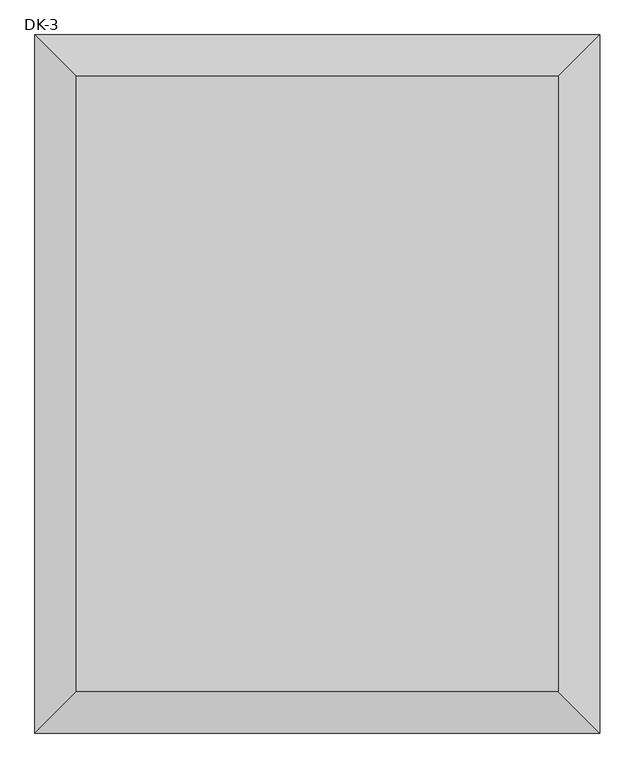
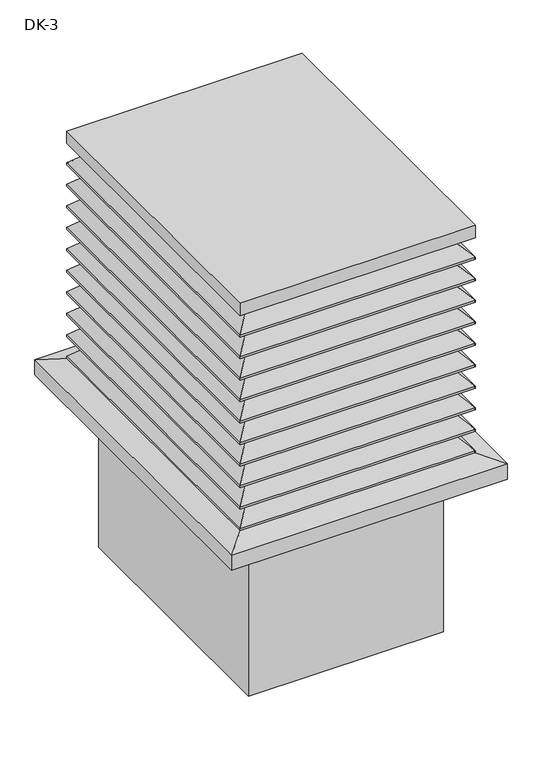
"""IFC4 building model written with IfcOpenShell, lengths in millimetres: air terminal geometry, NLRS_57_AIR_FB_Dakkap DK-3_SMA : DK-3."""

from ifc_helpers import new_model, si_unit, origin, place, context, project, spatial, faceted_brep, source, transform, mapped, element, save


def dk_3_dd5dadc6(model_context):
    return source(origin(), model_context, "Body", "Brep", [
        faceted_brep([(362.5, 462.5, 850.0), (362.5, 462.5, 856.36499), (362.5, -462.5, 856.36499), (362.5, -462.5, 850.0), (361.5, 461.5, 855.9507764), (361.5, 461.5, 850.0), (361.5, -461.5, 850.0), (361.5, -461.5, 855.9507764), (300.0, 400.0, 917.4507764), (300.0, -400.0, 917.4507764), (300.0, 400.0, 920.0), (300.0, -400.0, 920.0), (301.0, 401.0, 917.86499), (301.0, 401.0, 920.0), (301.0, -401.0, 920.0), (301.0, -401.0, 917.86499), (-362.5, -462.5, 856.36499), (-362.5, -462.5, 850.0), (-361.5, -461.5, 850.0), (-361.5, -461.5, 855.9507764), (-300.0, -400.0, 917.4507764), (-300.0, -400.0, 920.0), (-301.0, -401.0, 920.0), (-301.0, -401.0, 917.86499), (-362.5, 462.5, 856.36499), (-362.5, 462.5, 850.0), (-361.5, 461.5, 850.0), (-361.5, 461.5, 855.9507764), (-300.0, 400.0, 917.4507764), (-300.0, 400.0, 920.0), (-301.0, 401.0, 920.0), (-301.0, 401.0, 917.86499)], [[[0, 1, 2, 3]], [[4, 5, 6, 7]], [[8, 4, 7, 9]], [[10, 8, 9, 11]], [[12, 13, 14, 15]], [[1, 12, 15, 2]], [[3, 2, 16, 17]], [[7, 6, 18, 19]], [[9, 7, 19, 20]], [[11, 9, 20, 21]], [[15, 14, 22, 23]], [[2, 15, 23, 16]], [[17, 16, 24, 25]], [[19, 18, 26, 27]], [[20, 19, 27, 28]], [[21, 20, 28, 29]], [[23, 22, 30, 31]], [[16, 23, 31, 24]], [[25, 24, 1, 0]], [[3, 17, 25, 0], [5, 26, 18, 6]], [[27, 26, 5, 4]], [[28, 27, 4, 8]], [[29, 28, 8, 10]], [[13, 30, 22, 14], [11, 21, 29, 10]], [[31, 30, 13, 12]], [[24, 31, 12, 1]]]),
        faceted_brep([(362.5, 462.5, 780.0), (362.5, 462.5, 786.36499), (362.5, -462.5, 786.36499), (362.5, -462.5, 780.0), (361.5, 461.5, 785.9507764), (361.5, 461.5, 780.0), (361.5, -461.5, 780.0), (361.5, -461.5, 785.9507764), (300.0, 400.0, 847.4507764), (300.0, -400.0, 847.4507764), (300.0, 400.0, 850.0), (300.0, -400.0, 850.0), (301.0, 401.0, 847.86499), (301.0, 401.0, 850.0), (301.0, -401.0, 850.0), (301.0, -401.0, 847.86499), (-362.5, -462.5, 786.36499), (-362.5, -462.5, 780.0), (-361.5, -461.5, 780.0), (-361.5, -461.5, 785.9507764), (-300.0, -400.0, 847.4507764), (-300.0, -400.0, 850.0), (-301.0, -401.0, 850.0), (-301.0, -401.0, 847.86499), (-362.5, 462.5, 786.36499), (-362.5, 462.5, 780.0), (-361.5, 461.5, 780.0), (-361.5, 461.5, 785.9507764), (-300.0, 400.0, 847.4507764), (-300.0, 400.0, 850.0), (-301.0, 401.0, 850.0), (-301.0, 401.0, 847.86499)], [[[0, 1, 2, 3]], [[4, 5, 6, 7]], [[8, 4, 7, 9]], [[10, 8, 9, 11]], [[12, 13, 14, 15]], [[1, 12, 15, 2]], [[3, 2, 16, 17]], [[7, 6, 18, 19]], [[9, 7, 19, 20]], [[11, 9, 20, 21]], [[15, 14, 22, 23]], [[2, 15, 23, 16]], [[17, 16, 24, 25]], [[19, 18, 26, 27]], [[20, 19, 27, 28]], [[21, 20, 28, 29]], [[23, 22, 30, 31]], [[16, 23, 31, 24]], [[25, 24, 1, 0]], [[3, 17, 25, 0], [5, 26, 18, 6]], [[27, 26, 5, 4]], [[28, 27, 4, 8]], [[29, 28, 8, 10]], [[13, 30, 22, 14], [11, 21, 29, 10]], [[31, 30, 13, 12]], [[24, 31, 12, 1]]]),
        faceted_brep([(362.5, 462.5, 710.0), (362.5, 462.5, 716.36499), (362.5, -462.5, 716.36499), (362.5, -462.5, 710.0), (361.5, 461.5, 715.9507764), (361.5, 461.5, 710.0), (361.5, -461.5, 710.0), (361.5, -461.5, 715.9507764), (300.0, 400.0, 777.4507764), (300.0, -400.0, 777.4507764), (300.0, 400.0, 780.0), (300.0, -400.0, 780.0), (301.0, 401.0, 777.86499), (301.0, 401.0, 780.0), (301.0, -401.0, 780.0), (301.0, -401.0, 777.86499), (-362.5, -462.5, 716.36499), (-362.5, -462.5, 710.0), (-361.5, -461.5, 710.0), (-361.5, -461.5, 715.9507764), (-300.0, -400.0, 777.4507764), (-300.0, -400.0, 780.0), (-301.0, -401.0, 780.0), (-301.0, -401.0, 777.86499), (-362.5, 462.5, 716.36499), (-362.5, 462.5, 710.0), (-361.5, 461.5, 710.0), (-361.5, 461.5, 715.9507764), (-300.0, 400.0, 777.4507764), (-300.0, 400.0, 780.0), (-301.0, 401.0, 780.0), (-301.0, 401.0, 777.86499)], [[[0, 1, 2, 3]], [[4, 5, 6, 7]], [[8, 4, 7, 9]], [[10, 8, 9, 11]], [[12, 13, 14, 15]], [[1, 12, 15, 2]], [[3, 2, 16, 17]], [[7, 6, 18, 19]], [[9, 7, 19, 20]], [[11, 9, 20, 21]], [[15, 14, 22, 23]], [[2, 15, 23, 16]], [[17, 16, 24, 25]], [[19, 18, 26, 27]], [[20, 19, 27, 28]], [[21, 20, 28, 29]], [[23, 22, 30, 31]], [[16, 23, 31, 24]], [[25, 24, 1, 0]], [[3, 17, 25, 0], [5, 26, 18, 6]], [[27, 26, 5, 4]], [[28, 27, 4, 8]], [[29, 28, 8, 10]], [[13, 30, 22, 14], [11, 21, 29, 10]], [[31, 30, 13, 12]], [[24, 31, 12, 1]]]),
        faceted_brep([(362.5, 462.5, 640.0), (362.5, 462.5, 646.36499), (362.5, -462.5, 646.36499), (362.5, -462.5, 640.0), (361.5, 461.5, 645.9507764), (361.5, 461.5, 640.0), (361.5, -461.5, 640.0), (361.5, -461.5, 645.9507764), (300.0, 400.0, 707.4507764), (300.0, -400.0, 707.4507764), (300.0, 400.0, 710.0), (300.0, -400.0, 710.0), (301.0, 401.0, 707.86499), (301.0, 401.0, 710.0), (301.0, -401.0, 710.0), (301.0, -401.0, 707.86499), (-362.5, -462.5, 646.36499), (-362.5, -462.5, 640.0), (-361.5, -461.5, 640.0), (-361.5, -461.5, 645.9507764), (-300.0, -400.0, 707.4507764), (-300.0, -400.0, 710.0), (-301.0, -401.0, 710.0), (-301.0, -401.0, 707.86499), (-362.5, 462.5, 646.36499), (-362.5, 462.5, 640.0), (-361.5, 461.5, 640.0), (-361.5, 461.5, 645.9507764), (-300.0, 400.0, 707.4507764), (-300.0, 400.0, 710.0), (-301.0, 401.0, 710.0), (-301.0, 401.0, 707.86499)], [[[0, 1, 2, 3]], [[4, 5, 6, 7]], [[8, 4, 7, 9]], [[10, 8, 9, 11]], [[12, 13, 14, 15]], [[1, 12, 15, 2]], [[3, 2, 16, 17]], [[7, 6, 18, 19]], [[9, 7, 19, 20]], [[11, 9, 20, 21]], [[15, 14, 22, 23]], [[2, 15, 23, 16]], [[17, 16, 24, 25]], [[19, 18, 26, 27]], [[20, 19, 27, 28]], [[21, 20, 28, 29]], [[23, 22, 30, 31]], [[16, 23, 31, 24]], [[25, 24, 1, 0]], [[3, 17, 25, 0], [5, 26, 18, 6]], [[27, 26, 5, 4]], [[28, 27, 4, 8]], [[29, 28, 8, 10]], [[13, 30, 22, 14], [11, 21, 29, 10]], [[31, 30, 13, 12]], [[24, 31, 12, 1]]]),
        faceted_brep([(362.5, 462.5, 570.0), (362.5, 462.5, 576.36499), (362.5, -462.5, 576.36499), (362.5, -462.5, 570.0), (361.5, 461.5, 575.9507764), (361.5, 461.5, 570.0), (361.5, -461.5, 570.0), (361.5, -461.5, 575.9507764), (300.0, 400.0, 637.4507764), (300.0, -400.0, 637.4507764), (300.0, 400.0, 640.0), (300.0, -400.0, 640.0), (301.0, 401.0, 637.86499), (301.0, 401.0, 640.0), (301.0, -401.0, 640.0), (301.0, -401.0, 637.86499), (-362.5, -462.5, 576.36499), (-362.5, -462.5, 570.0), (-361.5, -461.5, 570.0), (-361.5, -461.5, 575.9507764), (-300.0, -400.0, 637.4507764), (-300.0, -400.0, 640.0), (-301.0, -401.0, 640.0), (-301.0, -401.0, 637.86499), (-362.5, 462.5, 576.36499), (-362.5, 462.5, 570.0), (-361.5, 461.5, 570.0), (-361.5, 461.5, 575.9507764), (-300.0, 400.0, 637.4507764), (-300.0, 400.0, 640.0), (-301.0, 401.0, 640.0), (-301.0, 401.0, 637.86499)], [[[0, 1, 2, 3]], [[4, 5, 6, 7]], [[8, 4, 7, 9]], [[10, 8, 9, 11]], [[12, 13, 14, 15]], [[1, 12, 15, 2]], [[3, 2, 16, 17]], [[7, 6, 18, 19]], [[9, 7, 19, 20]], [[11, 9, 20, 21]], [[15, 14, 22, 23]], [[2, 15, 23, 16]], [[17, 16, 24, 25]], [[19, 18, 26, 27]], [[20, 19, 27, 28]], [[21, 20, 28, 29]], [[23, 22, 30, 31]], [[16, 23, 31, 24]], [[25, 24, 1, 0]], [[3, 17, 25, 0], [5, 26, 18, 6]], [[27, 26, 5, 4]], [[28, 27, 4, 8]], [[29, 28, 8, 10]], [[13, 30, 22, 14], [11, 21, 29, 10]], [[31, 30, 13, 12]], [[24, 31, 12, 1]]]),
        faceted_brep([(362.5, 462.5, 500.0), (362.5, 462.5, 506.36499), (362.5, -462.5, 506.36499), (362.5, -462.5, 500.0), (361.5, 461.5, 505.9507764), (361.5, 461.5, 500.0), (361.5, -461.5, 500.0), (361.5, -461.5, 505.9507764), (300.0, 400.0, 567.4507764), (300.0, -400.0, 567.4507764), (300.0, 400.0, 570.0), (300.0, -400.0, 570.0), (301.0, 401.0, 567.86499), (301.0, 401.0, 570.0), (301.0, -401.0, 570.0), (301.0, -401.0, 567.86499), (-362.5, -462.5, 506.36499), (-362.5, -462.5, 500.0), (-361.5, -461.5, 500.0), (-361.5, -461.5, 505.9507764), (-300.0, -400.0, 567.4507764), (-300.0, -400.0, 570.0), (-301.0, -401.0, 570.0), (-301.0, -401.0, 567.86499), (-362.5, 462.5, 506.36499), (-362.5, 462.5, 500.0), (-361.5, 461.5, 500.0), (-361.5, 461.5, 505.9507764), (-300.0, 400.0, 567.4507764), (-300.0, 400.0, 570.0), (-301.0, 401.0, 570.0), (-301.0, 401.0, 567.86499)], [[[0, 1, 2, 3]], [[4, 5, 6, 7]], [[8, 4, 7, 9]], [[10, 8, 9, 11]], [[12, 13, 14, 15]], [[1, 12, 15, 2]], [[3, 2, 16, 17]], [[7, 6, 18, 19]], [[9, 7, 19, 20]], [[11, 9, 20, 21]], [[15, 14, 22, 23]], [[2, 15, 23, 16]], [[17, 16, 24, 25]], [[19, 18, 26, 27]], [[20, 19, 27, 28]], [[21, 20, 28, 29]], [[23, 22, 30, 31]], [[16, 23, 31, 24]], [[25, 24, 1, 0]], [[3, 17, 25, 0], [5, 26, 18, 6]], [[27, 26, 5, 4]], [[28, 27, 4, 8]], [[29, 28, 8, 10]], [[13, 30, 22, 14], [11, 21, 29, 10]], [[31, 30, 13, 12]], [[24, 31, 12, 1]]]),
        faceted_brep([(362.5, 462.5, 430.0), (362.5, 462.5, 436.36499), (362.5, -462.5, 436.36499), (362.5, -462.5, 430.0), (361.5, 461.5, 435.9507764), (361.5, 461.5, 430.0), (361.5, -461.5, 430.0), (361.5, -461.5, 435.9507764), (300.0, 400.0, 497.4507764), (300.0, -400.0, 497.4507764), (300.0, 400.0, 500.0), (300.0, -400.0, 500.0), (301.0, 401.0, 497.86499), (301.0, 401.0, 500.0), (301.0, -401.0, 500.0), (301.0, -401.0, 497.86499), (-362.5, -462.5, 436.36499), (-362.5, -462.5, 430.0), (-361.5, -461.5, 430.0), (-361.5, -461.5, 435.9507764), (-300.0, -400.0, 497.4507764), (-300.0, -400.0, 500.0), (-301.0, -401.0, 500.0), (-301.0, -401.0, 497.86499), (-362.5, 462.5, 436.36499), (-362.5, 462.5, 430.0), (-361.5, 461.5, 430.0), (-361.5, 461.5, 435.9507764), (-300.0, 400.0, 497.4507764), (-300.0, 400.0, 500.0), (-301.0, 401.0, 500.0), (-301.0, 401.0, 497.86499)], [[[0, 1, 2, 3]], [[4, 5, 6, 7]], [[8, 4, 7, 9]], [[10, 8, 9, 11]], [[12, 13, 14, 15]], [[1, 12, 15, 2]], [[3, 2, 16, 17]], [[7, 6, 18, 19]], [[9, 7, 19, 20]], [[11, 9, 20, 21]], [[15, 14, 22, 23]], [[2, 15, 23, 16]], [[17, 16, 24, 25]], [[19, 18, 26, 27]], [[20, 19, 27, 28]], [[21, 20, 28, 29]], [[23, 22, 30, 31]], [[16, 23, 31, 24]], [[25, 24, 1, 0]], [[3, 17, 25, 0], [5, 26, 18, 6]], [[27, 26, 5, 4]], [[28, 27, 4, 8]], [[29, 28, 8, 10]], [[13, 30, 22, 14], [11, 21, 29, 10]], [[31, 30, 13, 12]], [[24, 31, 12, 1]]]),
        faceted_brep([(362.5, 462.5, 360.0), (362.5, 462.5, 366.36499), (362.5, -462.5, 366.36499), (362.5, -462.5, 360.0), (361.5, 461.5, 365.9507764), (361.5, 461.5, 360.0), (361.5, -461.5, 360.0), (361.5, -461.5, 365.9507764), (300.0, 400.0, 427.4507764), (300.0, -400.0, 427.4507764), (300.0, 400.0, 430.0), (300.0, -400.0, 430.0), (301.0, 401.0, 427.86499), (301.0, 401.0, 430.0), (301.0, -401.0, 430.0), (301.0, -401.0, 427.86499), (-362.5, -462.5, 366.36499), (-362.5, -462.5, 360.0), (-361.5, -461.5, 360.0), (-361.5, -461.5, 365.9507764), (-300.0, -400.0, 427.4507764), (-300.0, -400.0, 430.0), (-301.0, -401.0, 430.0), (-301.0, -401.0, 427.86499), (-362.5, 462.5, 366.36499), (-362.5, 462.5, 360.0), (-361.5, 461.5, 360.0), (-361.5, 461.5, 365.9507764), (-300.0, 400.0, 427.4507764), (-300.0, 400.0, 430.0), (-301.0, 401.0, 430.0), (-301.0, 401.0, 427.86499)], [[[0, 1, 2, 3]], [[4, 5, 6, 7]], [[8, 4, 7, 9]], [[10, 8, 9, 11]], [[12, 13, 14, 15]], [[1, 12, 15, 2]], [[3, 2, 16, 17]], [[7, 6, 18, 19]], [[9, 7, 19, 20]], [[11, 9, 20, 21]], [[15, 14, 22, 23]], [[2, 15, 23, 16]], [[17, 16, 24, 25]], [[19, 18, 26, 27]], [[20, 19, 27, 28]], [[21, 20, 28, 29]], [[23, 22, 30, 31]], [[16, 23, 31, 24]], [[25, 24, 1, 0]], [[3, 17, 25, 0], [5, 26, 18, 6]], [[27, 26, 5, 4]], [[28, 27, 4, 8]], [[29, 28, 8, 10]], [[13, 30, 22, 14], [11, 21, 29, 10]], [[31, 30, 13, 12]], [[24, 31, 12, 1]]]),
        faceted_brep([(362.5, 462.5, 290.0), (362.5, 462.5, 296.36499), (362.5, -462.5, 296.36499), (362.5, -462.5, 290.0), (361.5, 461.5, 295.9507764), (361.5, 461.5, 290.0), (361.5, -461.5, 290.0), (361.5, -461.5, 295.9507764), (300.0, 400.0, 357.4507764), (300.0, -400.0, 357.4507764), (300.0, 400.0, 360.0), (300.0, -400.0, 360.0), (301.0, 401.0, 357.86499), (301.0, 401.0, 360.0), (301.0, -401.0, 360.0), (301.0, -401.0, 357.86499), (-362.5, -462.5, 296.36499), (-362.5, -462.5, 290.0), (-361.5, -461.5, 290.0), (-361.5, -461.5, 295.9507764), (-300.0, -400.0, 357.4507764), (-300.0, -400.0, 360.0), (-301.0, -401.0, 360.0), (-301.0, -401.0, 357.86499), (-362.5, 462.5, 296.36499), (-362.5, 462.5, 290.0), (-361.5, 461.5, 290.0), (-361.5, 461.5, 295.9507764), (-300.0, 400.0, 357.4507764), (-300.0, 400.0, 360.0), (-301.0, 401.0, 360.0), (-301.0, 401.0, 357.86499)], [[[0, 1, 2, 3]], [[4, 5, 6, 7]], [[8, 4, 7, 9]], [[10, 8, 9, 11]], [[12, 13, 14, 15]], [[1, 12, 15, 2]], [[3, 2, 16, 17]], [[7, 6, 18, 19]], [[9, 7, 19, 20]], [[11, 9, 20, 21]], [[15, 14, 22, 23]], [[2, 15, 23, 16]], [[17, 16, 24, 25]], [[19, 18, 26, 27]], [[20, 19, 27, 28]], [[21, 20, 28, 29]], [[23, 22, 30, 31]], [[16, 23, 31, 24]], [[25, 24, 1, 0]], [[3, 17, 25, 0], [5, 26, 18, 6]], [[27, 26, 5, 4]], [[28, 27, 4, 8]], [[29, 28, 8, 10]], [[13, 30, 22, 14], [11, 21, 29, 10]], [[31, 30, 13, 12]], [[24, 31, 12, 1]]]),
        faceted_brep([(362.5, 462.5, 220.0), (362.5, 462.5, 226.36499), (362.5, -462.5, 226.36499), (362.5, -462.5, 220.0), (361.5, 461.5, 225.9507764), (361.5, 461.5, 220.0), (361.5, -461.5, 220.0), (361.5, -461.5, 225.9507764), (300.0, 400.0, 287.4507764), (300.0, -400.0, 287.4507764), (300.0, 400.0, 290.0), (300.0, -400.0, 290.0), (301.0, 401.0, 287.86499), (301.0, 401.0, 290.0), (301.0, -401.0, 290.0), (301.0, -401.0, 287.86499), (-362.5, -462.5, 226.36499), (-362.5, -462.5, 220.0), (-361.5, -461.5, 220.0), (-361.5, -461.5, 225.9507764), (-300.0, -400.0, 287.4507764), (-300.0, -400.0, 290.0), (-301.0, -401.0, 290.0), (-301.0, -401.0, 287.86499), (-362.5, 462.5, 226.36499), (-362.5, 462.5, 220.0), (-361.5, 461.5, 220.0), (-361.5, 461.5, 225.9507764), (-300.0, 400.0, 287.4507764), (-300.0, 400.0, 290.0), (-301.0, 401.0, 290.0), (-301.0, 401.0, 287.86499)], [[[0, 1, 2, 3]], [[4, 5, 6, 7]], [[8, 4, 7, 9]], [[10, 8, 9, 11]], [[12, 13, 14, 15]], [[1, 12, 15, 2]], [[3, 2, 16, 17]], [[7, 6, 18, 19]], [[9, 7, 19, 20]], [[11, 9, 20, 21]], [[15, 14, 22, 23]], [[2, 15, 23, 16]], [[17, 16, 24, 25]], [[19, 18, 26, 27]], [[20, 19, 27, 28]], [[21, 20, 28, 29]], [[23, 22, 30, 31]], [[16, 23, 31, 24]], [[25, 24, 1, 0]], [[3, 17, 25, 0], [5, 26, 18, 6]], [[27, 26, 5, 4]], [[28, 27, 4, 8]], [[29, 28, 8, 10]], [[13, 30, 22, 14], [11, 21, 29, 10]], [[31, 30, 13, 12]], [[24, 31, 12, 1]]]),
        faceted_brep([(300.0, -400.0, 240.0), (300.0, 400.0, 240.0), (300.0, 400.0, 200.0), (300.0, -400.0, 200.0), (425.0, 525.0, 150.0), (425.0, 525.0, 200.0), (425.0, -525.0, 200.0), (425.0, -525.0, 150.0), (-300.0, -400.0, 240.0), (-300.0, -400.0, 200.0), (-425.0, -525.0, 200.0), (-425.0, -525.0, 150.0), (-300.0, 400.0, 240.0), (-300.0, 400.0, 200.0), (-425.0, 525.0, 200.0), (-425.0, 525.0, 150.0), (300.0, 400.0, 150.0), (-300.0, 400.0, 150.0), (-300.0, -400.0, 150.0), (300.0, -400.0, 150.0), (290.0, 390.0, 200.0), (290.0, -390.0, 200.0), (-290.0, -390.0, 200.0), (-290.0, 390.0, 200.0), (300.0, 400.0, -380.0), (300.0, -400.0, -380.0), (-300.0, -400.0, -380.0), (-300.0, 400.0, -380.0), (290.0, 390.0, -380.0), (-290.0, 390.0, -380.0), (-290.0, -390.0, -380.0), (290.0, -390.0, -380.0)], [[[0, 1, 2, 3]], [[4, 5, 6, 7]], [[8, 0, 3, 9]], [[7, 6, 10, 11]], [[12, 8, 9, 13]], [[11, 10, 14, 15]], [[4, 7, 11, 15], [16, 17, 18, 19]], [[1, 12, 13, 2]], [[5, 4, 15, 14]], [[1, 0, 6, 5]], [[0, 8, 10, 6]], [[8, 12, 14, 10]], [[12, 1, 5, 14]], [[3, 2, 13, 9], [20, 21, 22, 23]], [[24, 25, 26, 27], [28, 29, 30, 31]], [[24, 27, 17, 16]], [[27, 26, 18, 17]], [[26, 25, 19, 18]], [[25, 24, 16, 19]], [[21, 20, 28, 31]], [[22, 21, 31, 30]], [[23, 22, 30, 29]], [[20, 23, 29, 28]]]),
        faceted_brep([(362.5, 462.5, 960.0), (-362.5, 462.5, 960.0), (-362.5, -462.5, 960.0), (362.5, -462.5, 960.0), (362.5, 462.5, 920.0), (362.5, -462.5, 920.0), (-362.5, -462.5, 920.0), (-362.5, 462.5, 920.0)], [[[0, 1, 2, 3]], [[4, 5, 6, 7]], [[1, 0, 4, 7]], [[2, 1, 7, 6]], [[3, 2, 6, 5]], [[0, 3, 5, 4]]]),
    ])


if __name__ == "__main__":
    model = new_model("IFC4")
    model_context = context("Model", 3, world=origin())
    ifc_project = project(units=[si_unit("LENGTHUNIT", "METRE", prefix="MILLI")], contexts=[model_context])
    site = spatial("IfcSite", under=ifc_project)
    building = spatial("IfcBuilding", under=site)
    placement = place(None, origin())
    dk_3_shape = dk_3_dd5dadc6(model_context)
    element("IfcAirTerminal", 1, ObjectType="NLRS_57_AIR_FB_Dakkap DK-3_SMA : DK-3", at=placement, inside=building, context=model_context, shape_type="MappedRepresentation", body=[
        mapped(dk_3_shape, transform((0.0, 0.0, 0.0), x_axis=(1.0, 0.0, 0.0), y_axis=(0.0, 1.0, 0.0), z_axis=(0.0, 0.0, 1.0))),
    ])
    save(model, "model.ifc")
